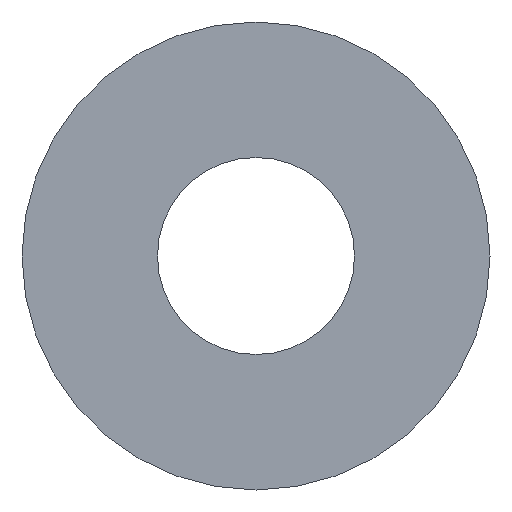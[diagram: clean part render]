
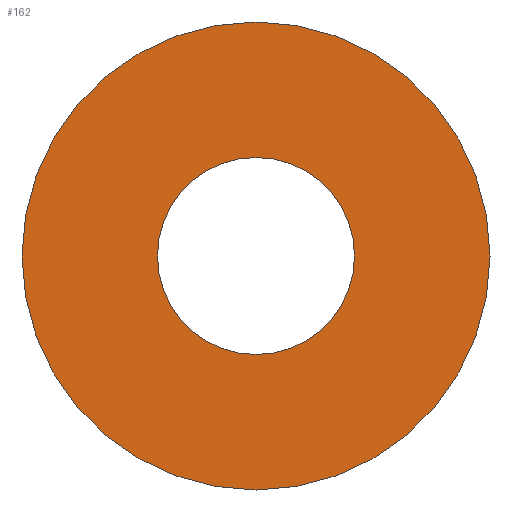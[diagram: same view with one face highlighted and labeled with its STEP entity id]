
A CAD part, front view. The second image highlights one B-rep face of the part: STEP entity #162.
In plain terms, the highlighted planar face has unit normal (0, -1, 0).
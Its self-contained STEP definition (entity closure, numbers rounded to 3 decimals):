
#19 = DIRECTION ( 'NONE',  ( 0., -1., 0. ) ) ;
#28 = DIRECTION ( 'NONE',  ( 0., 0., -1. ) ) ;
#43 = DIRECTION ( 'NONE',  ( 0., 0., -1. ) ) ;
#50 = CARTESIAN_POINT ( 'NONE',  ( 0., -6., -14.25 ) ) ;
#52 = CARTESIAN_POINT ( 'NONE',  ( 0., -6., 6. ) ) ;
#66 = VERTEX_POINT ( 'NONE', #72 ) ;
#72 = CARTESIAN_POINT ( 'NONE',  ( 0., -6., -6. ) ) ;
#77 = FACE_OUTER_BOUND ( 'NONE', #201, .T. ) ;
#82 = AXIS2_PLACEMENT_3D ( 'NONE', #182, #19, #43 ) ;
#87 = EDGE_CURVE ( 'NONE', #203, #176, #188, .T. ) ;
#88 = CARTESIAN_POINT ( 'NONE',  ( 0., -6., 0. ) ) ;
#89 = AXIS2_PLACEMENT_3D ( 'NONE', #177, #326, #154 ) ;
#91 = ORIENTED_EDGE ( 'NONE', *, *, #87, .T. ) ;
#105 = CARTESIAN_POINT ( 'NONE',  ( 0., -6., 14.25 ) ) ;
#114 = AXIS2_PLACEMENT_3D ( 'NONE', #88, #198, #174 ) ;
#130 = AXIS2_PLACEMENT_3D ( 'NONE', #163, #267, #28 ) ;
#133 = DIRECTION ( 'NONE',  ( 0., 0., -1. ) ) ;
#139 = EDGE_CURVE ( 'NONE', #176, #203, #276, .T. ) ;
#154 = DIRECTION ( 'NONE',  ( 0., 0., 1. ) ) ;
#162 = ADVANCED_FACE ( 'NONE', ( #292, #77 ), #238, .T. ) ;
#163 = CARTESIAN_POINT ( 'NONE',  ( 0., -6., 0. ) ) ;
#165 = VERTEX_POINT ( 'NONE', #52 ) ;
#174 = DIRECTION ( 'NONE',  ( 0., 0., 1. ) ) ;
#176 = VERTEX_POINT ( 'NONE', #105 ) ;
#177 = CARTESIAN_POINT ( 'NONE',  ( 0., -6., 0. ) ) ;
#182 = CARTESIAN_POINT ( 'NONE',  ( 0., -6., 0. ) ) ;
#188 = CIRCLE ( 'NONE', #82, 14.25 ) ;
#192 = AXIS2_PLACEMENT_3D ( 'NONE', #316, #341, #133 ) ;
#193 = CIRCLE ( 'NONE', #89, 6. ) ;
#198 = DIRECTION ( 'NONE',  ( 0., 1., 0. ) ) ;
#201 = EDGE_LOOP ( 'NONE', ( #335, #91 ) ) ;
#203 = VERTEX_POINT ( 'NONE', #50 ) ;
#238 = PLANE ( 'NONE',  #192 ) ;
#256 = CIRCLE ( 'NONE', #114, 6. ) ;
#262 = EDGE_CURVE ( 'NONE', #66, #165, #193, .T. ) ;
#267 = DIRECTION ( 'NONE',  ( 0., -1., 0. ) ) ;
#276 = CIRCLE ( 'NONE', #130, 14.25 ) ;
#285 = EDGE_CURVE ( 'NONE', #165, #66, #256, .T. ) ;
#292 = FACE_BOUND ( 'NONE', #303, .T. ) ;
#298 = ORIENTED_EDGE ( 'NONE', *, *, #262, .T. ) ;
#303 = EDGE_LOOP ( 'NONE', ( #331, #298 ) ) ;
#316 = CARTESIAN_POINT ( 'NONE',  ( 0., -6., 0. ) ) ;
#326 = DIRECTION ( 'NONE',  ( 0., 1., 0. ) ) ;
#331 = ORIENTED_EDGE ( 'NONE', *, *, #285, .T. ) ;
#335 = ORIENTED_EDGE ( 'NONE', *, *, #139, .T. ) ;
#341 = DIRECTION ( 'NONE',  ( 0., -1., 0. ) ) ;
